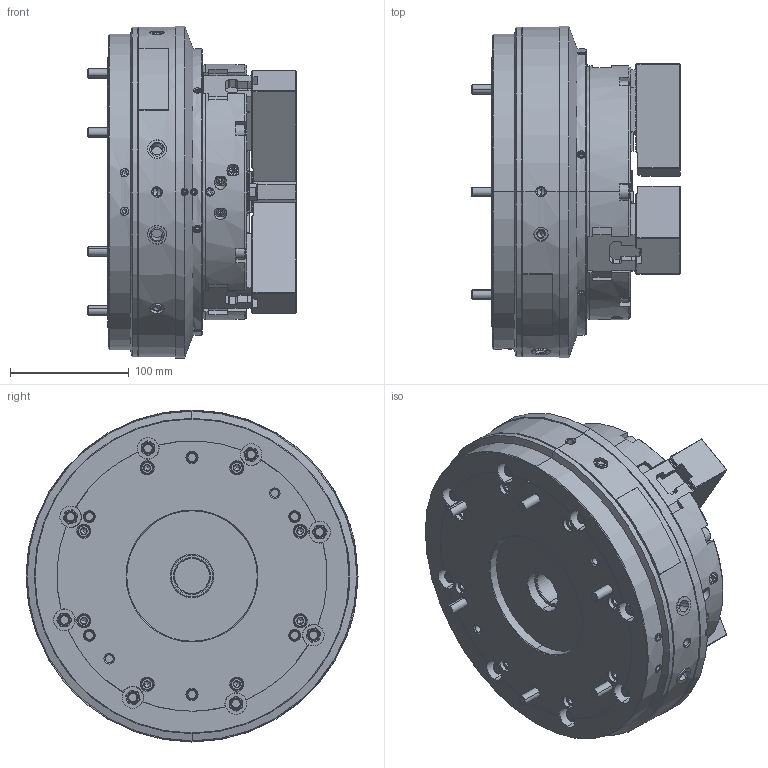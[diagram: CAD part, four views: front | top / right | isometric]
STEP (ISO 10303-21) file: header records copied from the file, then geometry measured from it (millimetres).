
FILE_DESCRIPTION (( 'STEP AP214' ), '1' );
FILE_NAME ('DEV-NRC08-HOL.STEP', '2024-10-03T05:07:00', ( '' ), ( '' ), 'SwSTEP 2.0', 'SolidWorks 2022', '' );
FILE_SCHEMA (( 'AUTOMOTIVE_DESIGN' ));
Length unit declared in the file: millimetre
Products named in the file (9): Copy of 61P413477^DEV-NRC08-クミタテ; Copy of 0693000002^DEV-NRC08-クミタテ; Copy of 61P304291^DEV-NRC08-クミタテ; Copy of 0030108125^DEV-NRC08-クミタテ; Copy of 0030112035^DEV-NRC08-クミタテ; Copy of 0263002400^DEV-NRC08-クミタテ_円筒用; Part1^DEV-NRC08-クミタテ; Copy of 61P400744^DEV-NRC08-クミタテ; DEV-NRC08-HOL
Assembly tree (23 placements, depth 2):
  DEV-NRC08-HOL
    Copy of 61P304291^DEV-NRC08-クミタテ  x3
    Copy of 61P400744^DEV-NRC08-クミタテ  x3
    Copy of 61P413477^DEV-NRC08-クミタテ
    Copy of 0030108125^DEV-NRC08-クミタテ  x6
    Copy of 0030112035^DEV-NRC08-クミタテ  x6
    Copy of 0263002400^DEV-NRC08-クミタテ_円筒用
    Copy of 0693000002^DEV-NRC08-クミタテ  x2
    Part1^DEV-NRC08-クミタテ
Bounding box: 176 x 280 x 280 mm (x, y, z)
Volume: 6060513.7 mm3; surface area: 434091 mm2
Topology: 23 solids, 69 shells, 5332 faces, 14564 edges, 9463 vertices
Faces by surface type: plane 3209, cylinder 1195, cone 754, bspline 140, torus 26, sphere 8
Entity records: 133821 total; most frequent: CARTESIAN_POINT 37268, ORIENTED_EDGE 21100, DIRECTION 18169, EDGE_CURVE 10550, VECTOR 7197, LINE 7197, VERTEX_POINT 6873, AXIS2_PLACEMENT_3D 5486
